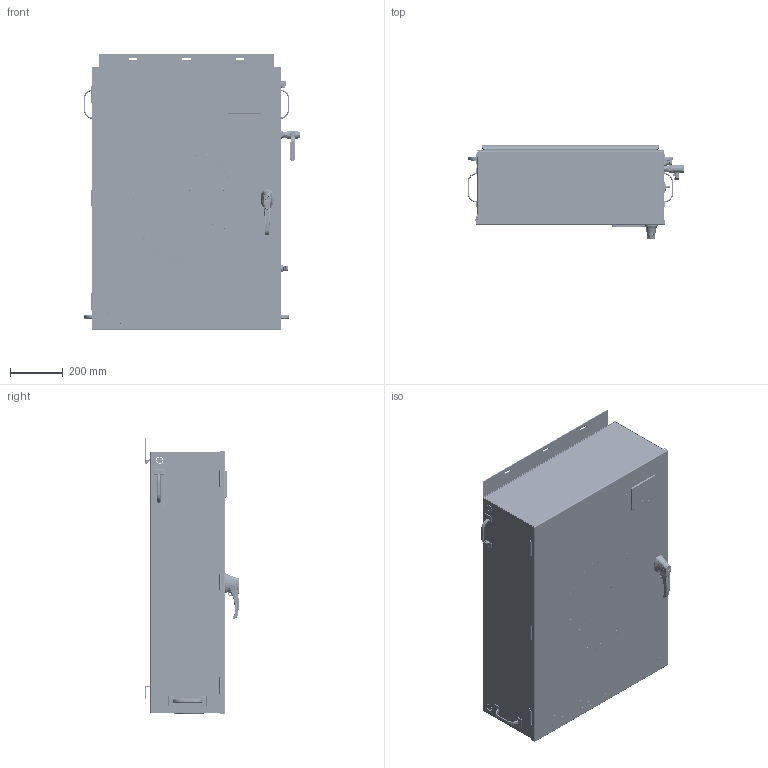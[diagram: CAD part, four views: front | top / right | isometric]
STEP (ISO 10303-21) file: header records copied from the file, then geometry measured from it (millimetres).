
FILE_DESCRIPTION(/* description */ (''),/* implementation_level */ '2;1');
FILE_NAME(/* name */ 'AG-3500.stp',/* time_stamp */ '2023-08-14T16:11:12-05:00',/* author */ ('atroll'),/* organization */ (''),/* preprocessor_version */ 'ST-DEVELOPER v19.2',/* originating_system */ 'Autodesk Inventor 2023',/* authorisation */ '');
FILE_SCHEMA (('AUTOMOTIVE_DESIGN { 1 0 10303 214 3 1 1 }'));
Products named in the file (1): AG-3500_Simplified
Bounding box: 823.15 x 356.45 x 1049.21 mm (x, y, z)
Volume: 6913782.4 mm3; surface area: 6850015.9 mm2
Topology: 29 solids, 52 shells, 8931 faces, 24142 edges, 15521 vertices
Faces by surface type: plane 5679, cylinder 1610, bspline 996, cone 314, torus 239, sphere 93
Full cylindrical faces by diameter (mm): 0.434 x1, 0.61 x9, 1.219 x9, 1.4 x3, 1.5 x2, 1.8 x18, 2 x2, 2.157 x2, 2.286 x6, 2.311 x8, 2.5 x4, 2.54 x2, 2.8 x2, 3 x16, 3.175 x7, 3.2 x4, 3.302 x4, 3.5 x7, 3.7 x4, 3.8 x2, 4.1 x3, 4.2 x1, 4.3 x1, 4.318 x2, 4.496 x8, 4.826 x4, 4.978 x1, 5 x1, 5.156 x4, 5.6 x4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
Entity records: 346755 total; most frequent: CARTESIAN_POINT 117819, ORIENTED_EDGE 48260, DIRECTION 41645, EDGE_CURVE 24130, LINE 16743, VECTOR 16743, VERTEX_POINT 15537, AXIS2_PLACEMENT_3D 12451
